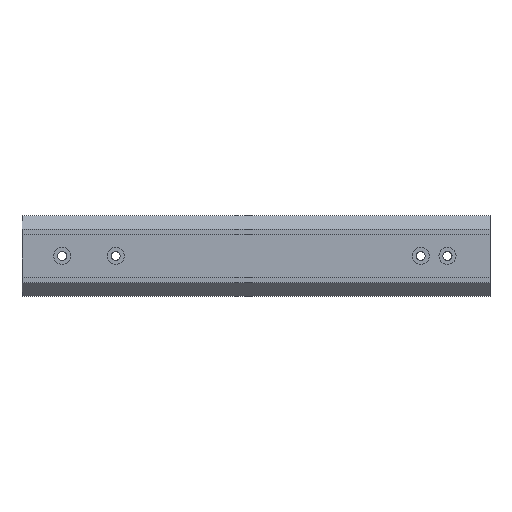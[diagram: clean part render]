
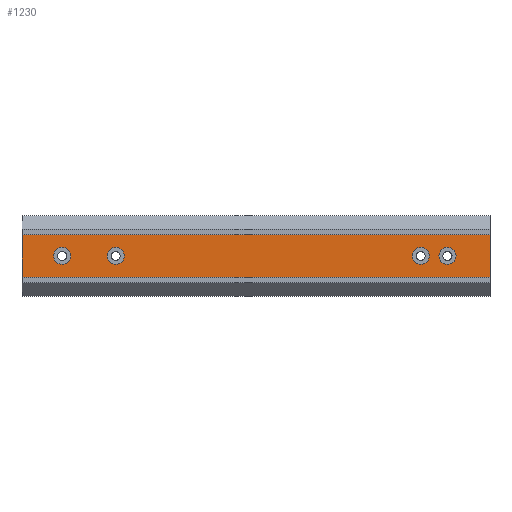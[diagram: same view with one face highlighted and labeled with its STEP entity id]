
A CAD part, top view. The second image highlights one B-rep face of the part: STEP entity #1230.
In plain terms, the highlighted planar face has unit normal (0, 0, 1).
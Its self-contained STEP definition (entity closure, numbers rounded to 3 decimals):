
#44 = PLANE('',#45);
#45 = AXIS2_PLACEMENT_3D('',#46,#47,#48);
#46 = CARTESIAN_POINT('',(0.,15.,9.495));
#47 = DIRECTION('',(1.,0.,0.));
#48 = DIRECTION('',(-0.,0.,1.));
#100 = PLANE('',#101);
#101 = AXIS2_PLACEMENT_3D('',#102,#103,#104);
#102 = CARTESIAN_POINT('',(174.9,-15.,-20.));
#103 = DIRECTION('',(1.,0.,0.));
#104 = DIRECTION('',(0.,0.,1.));
#390 = VERTEX_POINT('',#391);
#391 = CARTESIAN_POINT('',(0.,23.,20.));
#405 = PLANE('',#406);
#406 = AXIS2_PLACEMENT_3D('',#407,#408,#409);
#407 = CARTESIAN_POINT('',(0.,23.,13.));
#408 = DIRECTION('',(0.,-1.,0.));
#409 = DIRECTION('',(0.,0.,1.));
#417 = EDGE_CURVE('',#390,#418,#420,.T.);
#418 = VERTEX_POINT('',#419);
#419 = CARTESIAN_POINT('',(0.,7.,20.));
#420 = SURFACE_CURVE('',#421,(#425,#432),.PCURVE_S1.);
#421 = LINE('',#422,#423);
#422 = CARTESIAN_POINT('',(0.,23.,20.));
#423 = VECTOR('',#424,1.);
#424 = DIRECTION('',(0.,-1.,0.));
#425 = PCURVE('',#44,#426);
#426 = DEFINITIONAL_REPRESENTATION('',(#427),#431);
#427 = LINE('',#428,#429);
#428 = CARTESIAN_POINT('',(10.505,-8.));
#429 = VECTOR('',#430,1.);
#430 = DIRECTION('',(0.,1.));
#431 = ( GEOMETRIC_REPRESENTATION_CONTEXT(2) 
PARAMETRIC_REPRESENTATION_CONTEXT() REPRESENTATION_CONTEXT('2D SPACE',''
  ) );
#432 = PCURVE('',#433,#438);
#433 = PLANE('',#434);
#434 = AXIS2_PLACEMENT_3D('',#435,#436,#437);
#435 = CARTESIAN_POINT('',(0.,23.,20.));
#436 = DIRECTION('',(0.,0.,-1.));
#437 = DIRECTION('',(0.,-1.,0.));
#438 = DEFINITIONAL_REPRESENTATION('',(#439),#443);
#439 = LINE('',#440,#441);
#440 = CARTESIAN_POINT('',(0.,-0.));
#441 = VECTOR('',#442,1.);
#442 = DIRECTION('',(1.,0.));
#443 = ( GEOMETRIC_REPRESENTATION_CONTEXT(2) 
PARAMETRIC_REPRESENTATION_CONTEXT() REPRESENTATION_CONTEXT('2D SPACE',''
  ) );
#461 = PLANE('',#462);
#462 = AXIS2_PLACEMENT_3D('',#463,#464,#465);
#463 = CARTESIAN_POINT('',(0.,7.,20.));
#464 = DIRECTION('',(-0.,1.,0.));
#465 = DIRECTION('',(0.,0.,-1.));
#725 = VERTEX_POINT('',#726);
#726 = CARTESIAN_POINT('',(174.9,23.,20.));
#747 = EDGE_CURVE('',#725,#748,#750,.T.);
#748 = VERTEX_POINT('',#749);
#749 = CARTESIAN_POINT('',(174.9,7.,20.));
#750 = SURFACE_CURVE('',#751,(#755,#762),.PCURVE_S1.);
#751 = LINE('',#752,#753);
#752 = CARTESIAN_POINT('',(174.9,4.,20.));
#753 = VECTOR('',#754,1.);
#754 = DIRECTION('',(0.,-1.,0.));
#755 = PCURVE('',#100,#756);
#756 = DEFINITIONAL_REPRESENTATION('',(#757),#761);
#757 = LINE('',#758,#759);
#758 = CARTESIAN_POINT('',(40.,-19.));
#759 = VECTOR('',#760,1.);
#760 = DIRECTION('',(0.,1.));
#761 = ( GEOMETRIC_REPRESENTATION_CONTEXT(2) 
PARAMETRIC_REPRESENTATION_CONTEXT() REPRESENTATION_CONTEXT('2D SPACE',''
  ) );
#762 = PCURVE('',#433,#763);
#763 = DEFINITIONAL_REPRESENTATION('',(#764),#768);
#764 = LINE('',#765,#766);
#765 = CARTESIAN_POINT('',(19.,-174.9));
#766 = VECTOR('',#767,1.);
#767 = DIRECTION('',(1.,0.));
#768 = ( GEOMETRIC_REPRESENTATION_CONTEXT(2) 
PARAMETRIC_REPRESENTATION_CONTEXT() REPRESENTATION_CONTEXT('2D SPACE',''
  ) );
#1210 = EDGE_CURVE('',#390,#725,#1211,.T.);
#1211 = SURFACE_CURVE('',#1212,(#1216,#1223),.PCURVE_S1.);
#1212 = LINE('',#1213,#1214);
#1213 = CARTESIAN_POINT('',(0.,23.,20.));
#1214 = VECTOR('',#1215,1.);
#1215 = DIRECTION('',(1.,0.,0.));
#1216 = PCURVE('',#405,#1217);
#1217 = DEFINITIONAL_REPRESENTATION('',(#1218),#1222);
#1218 = LINE('',#1219,#1220);
#1219 = CARTESIAN_POINT('',(7.,0.));
#1220 = VECTOR('',#1221,1.);
#1221 = DIRECTION('',(0.,-1.));
#1222 = ( GEOMETRIC_REPRESENTATION_CONTEXT(2) 
PARAMETRIC_REPRESENTATION_CONTEXT() REPRESENTATION_CONTEXT('2D SPACE',''
  ) );
#1223 = PCURVE('',#433,#1224);
#1224 = DEFINITIONAL_REPRESENTATION('',(#1225),#1229);
#1225 = LINE('',#1226,#1227);
#1226 = CARTESIAN_POINT('',(0.,-0.));
#1227 = VECTOR('',#1228,1.);
#1228 = DIRECTION('',(0.,-1.));
#1229 = ( GEOMETRIC_REPRESENTATION_CONTEXT(2) 
PARAMETRIC_REPRESENTATION_CONTEXT() REPRESENTATION_CONTEXT('2D SPACE',''
  ) );
#1230 = ADVANCED_FACE('',(#1231,#1257,#1288,#1319,#1350),#433,.F.);
#1231 = FACE_BOUND('',#1232,.F.);
#1232 = EDGE_LOOP('',(#1233,#1234,#1235,#1236));
#1233 = ORIENTED_EDGE('',*,*,#417,.F.);
#1234 = ORIENTED_EDGE('',*,*,#1210,.T.);
#1235 = ORIENTED_EDGE('',*,*,#747,.T.);
#1236 = ORIENTED_EDGE('',*,*,#1237,.F.);
#1237 = EDGE_CURVE('',#418,#748,#1238,.T.);
#1238 = SURFACE_CURVE('',#1239,(#1243,#1250),.PCURVE_S1.);
#1239 = LINE('',#1240,#1241);
#1240 = CARTESIAN_POINT('',(0.,7.,20.));
#1241 = VECTOR('',#1242,1.);
#1242 = DIRECTION('',(1.,0.,0.));
#1243 = PCURVE('',#433,#1244);
#1244 = DEFINITIONAL_REPRESENTATION('',(#1245),#1249);
#1245 = LINE('',#1246,#1247);
#1246 = CARTESIAN_POINT('',(16.,0.));
#1247 = VECTOR('',#1248,1.);
#1248 = DIRECTION('',(0.,-1.));
#1249 = ( GEOMETRIC_REPRESENTATION_CONTEXT(2) 
PARAMETRIC_REPRESENTATION_CONTEXT() REPRESENTATION_CONTEXT('2D SPACE',''
  ) );
#1250 = PCURVE('',#461,#1251);
#1251 = DEFINITIONAL_REPRESENTATION('',(#1252),#1256);
#1252 = LINE('',#1253,#1254);
#1253 = CARTESIAN_POINT('',(0.,0.));
#1254 = VECTOR('',#1255,1.);
#1255 = DIRECTION('',(0.,-1.));
#1256 = ( GEOMETRIC_REPRESENTATION_CONTEXT(2) 
PARAMETRIC_REPRESENTATION_CONTEXT() REPRESENTATION_CONTEXT('2D SPACE',''
  ) );
#1257 = FACE_BOUND('',#1258,.F.);
#1258 = EDGE_LOOP('',(#1259));
#1259 = ORIENTED_EDGE('',*,*,#1260,.F.);
#1260 = EDGE_CURVE('',#1261,#1261,#1263,.T.);
#1261 = VERTEX_POINT('',#1262);
#1262 = CARTESIAN_POINT('',(162.2,15.,20.));
#1263 = SURFACE_CURVE('',#1264,(#1269,#1276),.PCURVE_S1.);
#1264 = CIRCLE('',#1265,3.2);
#1265 = AXIS2_PLACEMENT_3D('',#1266,#1267,#1268);
#1266 = CARTESIAN_POINT('',(159.,15.,20.));
#1267 = DIRECTION('',(0.,0.,-1.));
#1268 = DIRECTION('',(1.,0.,0.));
#1269 = PCURVE('',#433,#1270);
#1270 = DEFINITIONAL_REPRESENTATION('',(#1271),#1275);
#1271 = CIRCLE('',#1272,3.2);
#1272 = AXIS2_PLACEMENT_2D('',#1273,#1274);
#1273 = CARTESIAN_POINT('',(8.,-159.));
#1274 = DIRECTION('',(0.,-1.));
#1275 = ( GEOMETRIC_REPRESENTATION_CONTEXT(2) 
PARAMETRIC_REPRESENTATION_CONTEXT() REPRESENTATION_CONTEXT('2D SPACE',''
  ) );
#1276 = PCURVE('',#1277,#1282);
#1277 = CYLINDRICAL_SURFACE('',#1278,3.2);
#1278 = AXIS2_PLACEMENT_3D('',#1279,#1280,#1281);
#1279 = CARTESIAN_POINT('',(159.,15.,16.));
#1280 = DIRECTION('',(-0.,-0.,-1.));
#1281 = DIRECTION('',(1.,0.,0.));
#1282 = DEFINITIONAL_REPRESENTATION('',(#1283),#1287);
#1283 = LINE('',#1284,#1285);
#1284 = CARTESIAN_POINT('',(-6.283,-4.));
#1285 = VECTOR('',#1286,1.);
#1286 = DIRECTION('',(1.,-0.));
#1287 = ( GEOMETRIC_REPRESENTATION_CONTEXT(2) 
PARAMETRIC_REPRESENTATION_CONTEXT() REPRESENTATION_CONTEXT('2D SPACE',''
  ) );
#1288 = FACE_BOUND('',#1289,.F.);
#1289 = EDGE_LOOP('',(#1290));
#1290 = ORIENTED_EDGE('',*,*,#1291,.F.);
#1291 = EDGE_CURVE('',#1292,#1292,#1294,.T.);
#1292 = VERTEX_POINT('',#1293);
#1293 = CARTESIAN_POINT('',(152.2,15.,20.));
#1294 = SURFACE_CURVE('',#1295,(#1300,#1307),.PCURVE_S1.);
#1295 = CIRCLE('',#1296,3.2);
#1296 = AXIS2_PLACEMENT_3D('',#1297,#1298,#1299);
#1297 = CARTESIAN_POINT('',(149.,15.,20.));
#1298 = DIRECTION('',(0.,0.,-1.));
#1299 = DIRECTION('',(1.,0.,0.));
#1300 = PCURVE('',#433,#1301);
#1301 = DEFINITIONAL_REPRESENTATION('',(#1302),#1306);
#1302 = CIRCLE('',#1303,3.2);
#1303 = AXIS2_PLACEMENT_2D('',#1304,#1305);
#1304 = CARTESIAN_POINT('',(8.,-149.));
#1305 = DIRECTION('',(0.,-1.));
#1306 = ( GEOMETRIC_REPRESENTATION_CONTEXT(2) 
PARAMETRIC_REPRESENTATION_CONTEXT() REPRESENTATION_CONTEXT('2D SPACE',''
  ) );
#1307 = PCURVE('',#1308,#1313);
#1308 = CYLINDRICAL_SURFACE('',#1309,3.2);
#1309 = AXIS2_PLACEMENT_3D('',#1310,#1311,#1312);
#1310 = CARTESIAN_POINT('',(149.,15.,16.));
#1311 = DIRECTION('',(-0.,-0.,-1.));
#1312 = DIRECTION('',(1.,0.,0.));
#1313 = DEFINITIONAL_REPRESENTATION('',(#1314),#1318);
#1314 = LINE('',#1315,#1316);
#1315 = CARTESIAN_POINT('',(-6.283,-4.));
#1316 = VECTOR('',#1317,1.);
#1317 = DIRECTION('',(1.,-0.));
#1318 = ( GEOMETRIC_REPRESENTATION_CONTEXT(2) 
PARAMETRIC_REPRESENTATION_CONTEXT() REPRESENTATION_CONTEXT('2D SPACE',''
  ) );
#1319 = FACE_BOUND('',#1320,.F.);
#1320 = EDGE_LOOP('',(#1321));
#1321 = ORIENTED_EDGE('',*,*,#1322,.F.);
#1322 = EDGE_CURVE('',#1323,#1323,#1325,.T.);
#1323 = VERTEX_POINT('',#1324);
#1324 = CARTESIAN_POINT('',(38.2,15.,20.));
#1325 = SURFACE_CURVE('',#1326,(#1331,#1338),.PCURVE_S1.);
#1326 = CIRCLE('',#1327,3.2);
#1327 = AXIS2_PLACEMENT_3D('',#1328,#1329,#1330);
#1328 = CARTESIAN_POINT('',(35.,15.,20.));
#1329 = DIRECTION('',(0.,0.,-1.));
#1330 = DIRECTION('',(1.,0.,0.));
#1331 = PCURVE('',#433,#1332);
#1332 = DEFINITIONAL_REPRESENTATION('',(#1333),#1337);
#1333 = CIRCLE('',#1334,3.2);
#1334 = AXIS2_PLACEMENT_2D('',#1335,#1336);
#1335 = CARTESIAN_POINT('',(8.,-35.));
#1336 = DIRECTION('',(0.,-1.));
#1337 = ( GEOMETRIC_REPRESENTATION_CONTEXT(2) 
PARAMETRIC_REPRESENTATION_CONTEXT() REPRESENTATION_CONTEXT('2D SPACE',''
  ) );
#1338 = PCURVE('',#1339,#1344);
#1339 = CYLINDRICAL_SURFACE('',#1340,3.2);
#1340 = AXIS2_PLACEMENT_3D('',#1341,#1342,#1343);
#1341 = CARTESIAN_POINT('',(35.,15.,16.));
#1342 = DIRECTION('',(-0.,-0.,-1.));
#1343 = DIRECTION('',(1.,0.,0.));
#1344 = DEFINITIONAL_REPRESENTATION('',(#1345),#1349);
#1345 = LINE('',#1346,#1347);
#1346 = CARTESIAN_POINT('',(-6.283,-4.));
#1347 = VECTOR('',#1348,1.);
#1348 = DIRECTION('',(1.,-0.));
#1349 = ( GEOMETRIC_REPRESENTATION_CONTEXT(2) 
PARAMETRIC_REPRESENTATION_CONTEXT() REPRESENTATION_CONTEXT('2D SPACE',''
  ) );
#1350 = FACE_BOUND('',#1351,.F.);
#1351 = EDGE_LOOP('',(#1352));
#1352 = ORIENTED_EDGE('',*,*,#1353,.F.);
#1353 = EDGE_CURVE('',#1354,#1354,#1356,.T.);
#1354 = VERTEX_POINT('',#1355);
#1355 = CARTESIAN_POINT('',(18.2,15.,20.));
#1356 = SURFACE_CURVE('',#1357,(#1362,#1369),.PCURVE_S1.);
#1357 = CIRCLE('',#1358,3.2);
#1358 = AXIS2_PLACEMENT_3D('',#1359,#1360,#1361);
#1359 = CARTESIAN_POINT('',(15.,15.,20.));
#1360 = DIRECTION('',(0.,0.,-1.));
#1361 = DIRECTION('',(1.,0.,0.));
#1362 = PCURVE('',#433,#1363);
#1363 = DEFINITIONAL_REPRESENTATION('',(#1364),#1368);
#1364 = CIRCLE('',#1365,3.2);
#1365 = AXIS2_PLACEMENT_2D('',#1366,#1367);
#1366 = CARTESIAN_POINT('',(8.,-15.));
#1367 = DIRECTION('',(0.,-1.));
#1368 = ( GEOMETRIC_REPRESENTATION_CONTEXT(2) 
PARAMETRIC_REPRESENTATION_CONTEXT() REPRESENTATION_CONTEXT('2D SPACE',''
  ) );
#1369 = PCURVE('',#1370,#1375);
#1370 = CYLINDRICAL_SURFACE('',#1371,3.2);
#1371 = AXIS2_PLACEMENT_3D('',#1372,#1373,#1374);
#1372 = CARTESIAN_POINT('',(15.,15.,16.));
#1373 = DIRECTION('',(-0.,-0.,-1.));
#1374 = DIRECTION('',(1.,0.,0.));
#1375 = DEFINITIONAL_REPRESENTATION('',(#1376),#1380);
#1376 = LINE('',#1377,#1378);
#1377 = CARTESIAN_POINT('',(-6.283,-4.));
#1378 = VECTOR('',#1379,1.);
#1379 = DIRECTION('',(1.,-0.));
#1380 = ( GEOMETRIC_REPRESENTATION_CONTEXT(2) 
PARAMETRIC_REPRESENTATION_CONTEXT() REPRESENTATION_CONTEXT('2D SPACE',''
  ) );
